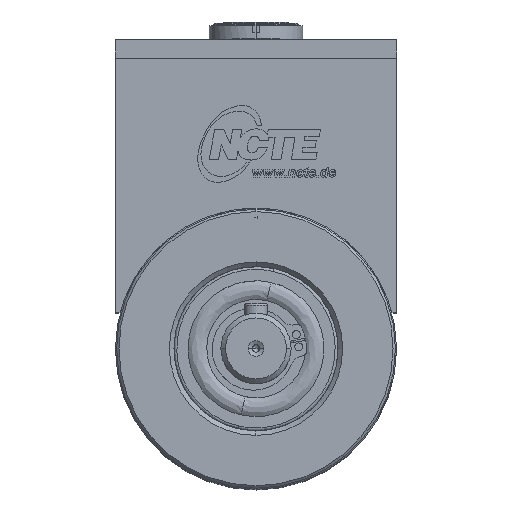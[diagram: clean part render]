
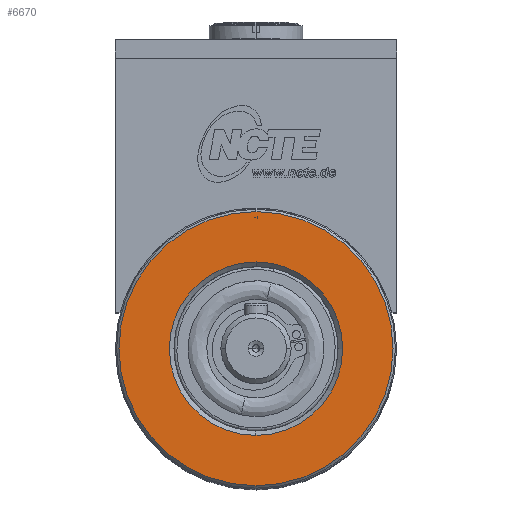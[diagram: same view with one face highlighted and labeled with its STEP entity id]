
A CAD part, top view. The second image highlights one B-rep face of the part: STEP entity #6670.
In plain terms, the highlighted planar face has unit normal (0, 0, -1).
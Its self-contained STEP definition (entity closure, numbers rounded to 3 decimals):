
#311 = AXIS2_PLACEMENT_3D ( 'NONE', #10516, #27701, #17926 ) ;
#1387 = CARTESIAN_POINT ( 'NONE',  ( 0., 0., 13. ) ) ;
#2286 = VERTEX_POINT ( 'NONE', #9786 ) ;
#3813 = AXIS2_PLACEMENT_3D ( 'NONE', #14343, #16822, #12082 ) ;
#4766 = ORIENTED_EDGE ( 'NONE', *, *, #15517, .F. ) ;
#6028 = ORIENTED_EDGE ( 'NONE', *, *, #20164, .F. ) ;
#6670 = ADVANCED_FACE ( 'NONE', ( #20573, #23427 ), #30678, .F. ) ;
#8392 = DIRECTION ( 'NONE',  ( 0., 0., 1. ) ) ;
#9786 = CARTESIAN_POINT ( 'NONE',  ( 0., 29.25, 13. ) ) ;
#10516 = CARTESIAN_POINT ( 'NONE',  ( 0., 0., 13. ) ) ;
#10527 = AXIS2_PLACEMENT_3D ( 'NONE', #15880, #18577, #21054 ) ;
#11164 = DIRECTION ( 'NONE',  ( 0., -1., 0. ) ) ;
#11934 = CIRCLE ( 'NONE', #311, 18.5 ) ;
#12082 = DIRECTION ( 'NONE',  ( 0., 1., 0. ) ) ;
#13528 = CARTESIAN_POINT ( 'NONE',  ( 0., 0., 13. ) ) ;
#14343 = CARTESIAN_POINT ( 'NONE',  ( 0., 0., 13. ) ) ;
#14580 = CARTESIAN_POINT ( 'NONE',  ( 0., 18.5, 13. ) ) ;
#15517 = EDGE_CURVE ( 'NONE', #23868, #26297, #16456, .T. ) ;
#15665 = CARTESIAN_POINT ( 'NONE',  ( 0., -29.25, 13. ) ) ;
#15880 = CARTESIAN_POINT ( 'NONE',  ( 0., 0., 13. ) ) ;
#16456 = CIRCLE ( 'NONE', #28420, 18.5 ) ;
#16822 = DIRECTION ( 'NONE',  ( 0., 0., 1. ) ) ;
#17254 = VERTEX_POINT ( 'NONE', #15665 ) ;
#17926 = DIRECTION ( 'NONE',  ( 0., -1., 0. ) ) ;
#18495 = DIRECTION ( 'NONE',  ( 0., 1., 0. ) ) ;
#18577 = DIRECTION ( 'NONE',  ( 0., 0., 1. ) ) ;
#19824 = EDGE_CURVE ( 'NONE', #17254, #2286, #23757, .T. ) ;
#19883 = AXIS2_PLACEMENT_3D ( 'NONE', #1387, #8392, #18495 ) ;
#20164 = EDGE_CURVE ( 'NONE', #26297, #23868, #11934, .T. ) ;
#20573 = FACE_BOUND ( 'NONE', #23693, .T. ) ;
#21054 = DIRECTION ( 'NONE',  ( 1., 0., 0. ) ) ;
#22098 = CIRCLE ( 'NONE', #3813, 29.25 ) ;
#23427 = FACE_OUTER_BOUND ( 'NONE', #25136, .T. ) ;
#23693 = EDGE_LOOP ( 'NONE', ( #4766, #6028 ) ) ;
#23757 = CIRCLE ( 'NONE', #19883, 29.25 ) ;
#23868 = VERTEX_POINT ( 'NONE', #28818 ) ;
#24408 = ORIENTED_EDGE ( 'NONE', *, *, #29704, .F. ) ;
#25136 = EDGE_LOOP ( 'NONE', ( #24408, #29140 ) ) ;
#26297 = VERTEX_POINT ( 'NONE', #14580 ) ;
#27701 = DIRECTION ( 'NONE',  ( 0., 0., -1. ) ) ;
#28215 = DIRECTION ( 'NONE',  ( 0., 0., -1. ) ) ;
#28420 = AXIS2_PLACEMENT_3D ( 'NONE', #13528, #28215, #11164 ) ;
#28818 = CARTESIAN_POINT ( 'NONE',  ( 0., -18.5, 13. ) ) ;
#29140 = ORIENTED_EDGE ( 'NONE', *, *, #19824, .F. ) ;
#29704 = EDGE_CURVE ( 'NONE', #2286, #17254, #22098, .T. ) ;
#30678 = PLANE ( 'NONE',  #10527 ) ;
